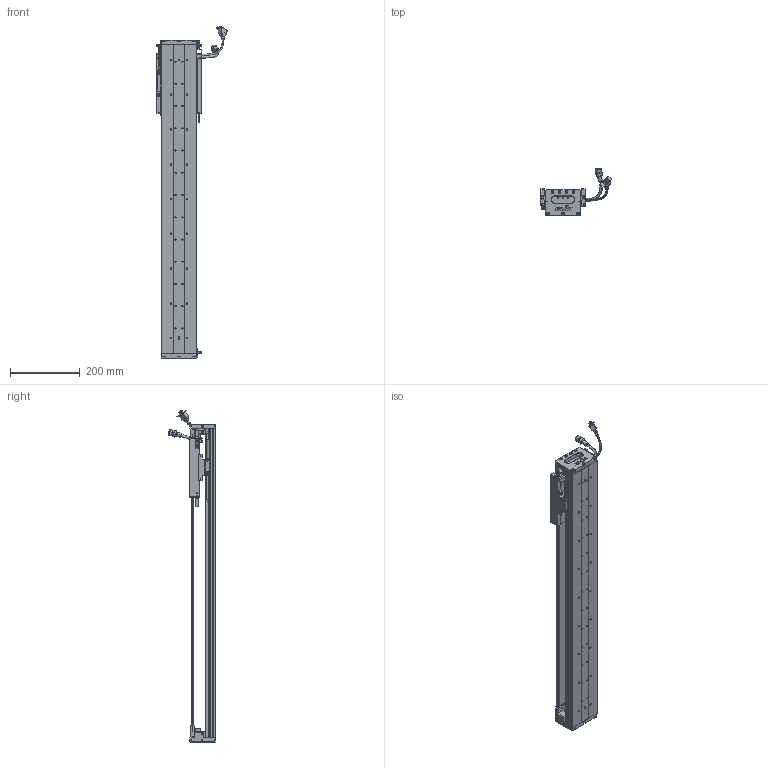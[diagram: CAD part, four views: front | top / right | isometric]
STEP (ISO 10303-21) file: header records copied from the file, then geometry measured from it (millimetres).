
FILE_DESCRIPTION (( 'STEP AP203' ), '1' );
FILE_NAME ('Z2-RY100D-1-L500-B-K.SLDASM_0650.step', '2021-05-17T02:35:25', ( '盈信电脑' ), ( '东莞市道滘镇水果街19号' ), 'SwSTEP 2.0', 'SolidWorks 2016', '' );
FILE_SCHEMA (( 'CONFIG_CONTROL_DESIGN' ));
Length unit declared in the file: millimetre
Products named in the file (36): 080黍杅芛假蚾釱21遴; LABEL-Part-1; SCREW-M1.7-1; SEAL-Part-1; SCALE-Part-2; SCREW-M1.6-2; 140雄赽晤鎢ん堤盄; Z2-RY100D-1-L500-B-K.SLDASM_0650; Z-RY100D詩湍奻揤裔; PBU_SHEET; SHIELDPLATE; Z2-RY100D-500-倰第菁釱_0650; 覜茼ん672; Z-RY100D覜茼んえ; 140蚥薯蝶輸; Z-RY100D詩湍狟揤裔; HARNESS-Part-1; COVER; SCALE-Part-1; Z-100詩湍傷裔啣; Z2-RY100-L500詩湍90mm遵_0650; SCALE; Z2-RY100铝滑块（21款）; 100-Z-臏賑輸盄裔(21遴); SCREW-M1.7; LABEL; SEAL; COVER-Part-1; HOLDER0; HARNESS; SCREW-M1.6-1; PSLH080_PSLF2; SCREW-M1.6-3; 榋妏寠巭燃_暯_M2_2; HARNESS-Part-2; SCREW-M1.6
Assembly tree (43 placements, depth 4):
  Z2-RY100D-1-L500-B-K.SLDASM_0650
    Z2-RY100D-500-倰第菁釱_0650
    Z2-RY100铝滑块（21款）
    PSLH080_PSLF2
      SCALE
        SCALE-Part-1
        SCALE-Part-2
      HARNESS
        HARNESS-Part-1
        HARNESS-Part-2
      LABEL
        LABEL-Part-1
      COVER
        COVER-Part-1
      SEAL
        SEAL-Part-1
      榋妏寠巭燃_暯_M2_2
      SHIELDPLATE
      SCREW-M1.7
      SCREW-M1.7-1
      PBU_SHEET
      SCREW-M1.6
      SCREW-M1.6-1
      SCREW-M1.6-2
      SCREW-M1.6-3
      HOLDER0
    080黍杅芛假蚾釱21遴
    Z-100詩湍傷裔啣  x2
    140蚥薯蝶輸  x2
    覜茼ん672  x3
    Z-RY100D覜茼んえ  x3
    100-Z-臏賑輸盄裔(21遴)
    140雄赽晤鎢ん堤盄
    Z2-RY100-L500詩湍90mm遵_0650
    Z-RY100D詩湍狟揤裔  x2
    Z-RY100D詩湍奻揤裔  x2
Bounding box: 205.84 x 136.11 x 955.43 mm (x, y, z)
Volume: 2048948.7 mm3; surface area: 788255.1 mm2
Topology: 38 solids, 38 shells, 2520 faces, 6585 edges, 4164 vertices
Faces by surface type: plane 1114, cylinder 1066, cone 218, torus 69, bspline 53
Entity records: 67893 total; most frequent: CARTESIAN_POINT 14360, DIRECTION 10697, ORIENTED_EDGE 10066, EDGE_CURVE 5033, AXIS2_PLACEMENT_3D 3913, VERTEX_POINT 3232, LINE 2871, VECTOR 2871
